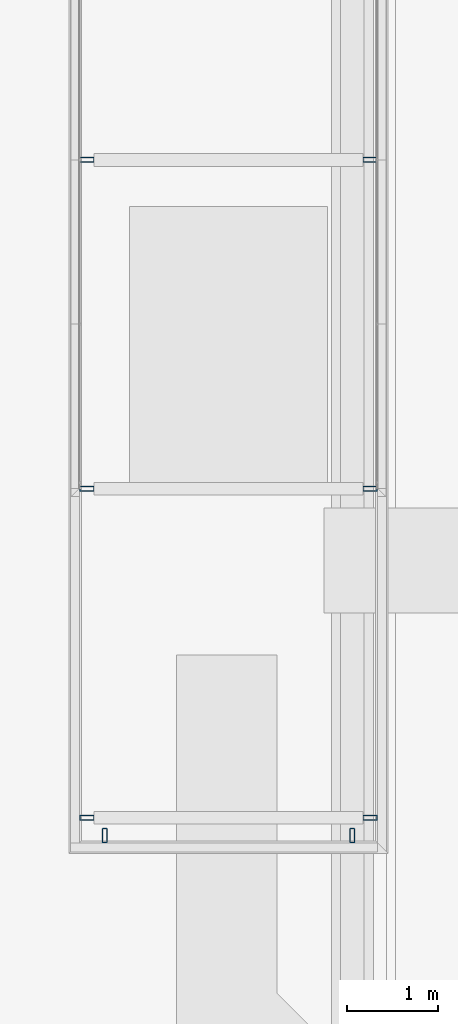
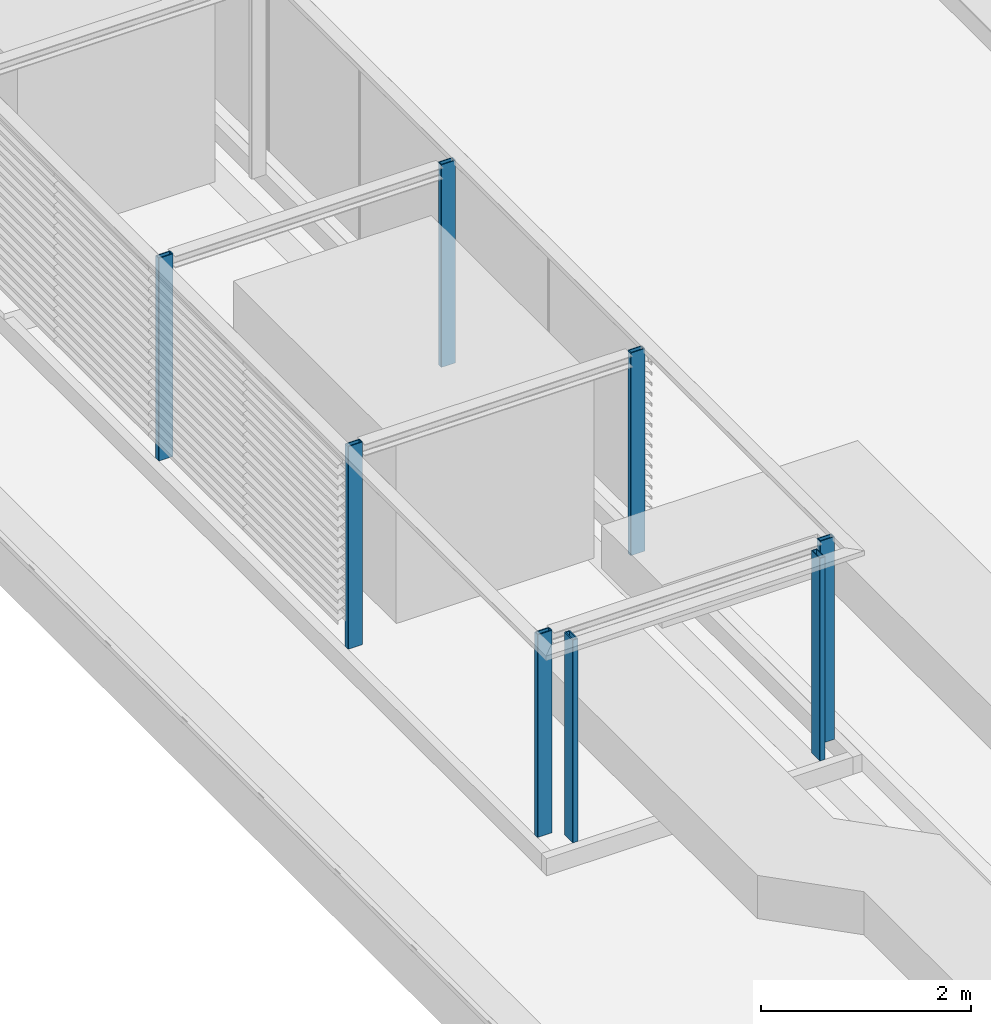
# One storey, part 1 of 32: 8 columns.
"""IFC2X3 building model written with IfcOpenShell, lengths in millimetres."""

import ifcopenshell
import ifcopenshell.guid

model = None  # the IFC model being written
_history = None  # IfcOwnerHistory: only IFC2X3 demands one
_inside = {}  # id of a spatial element -> (the spatial element, [elements in it])
_under = {}  # id of a project, library or spatial element -> (it, [spatial elements below it])
_declared = {}  # id of a project -> (the project, [libraries it declares])
_typed = {}  # id of a type object -> (the type object, [elements of that type])
_made_of = {}  # id of a material, layer set ... -> (it, [elements and type objects made of it])


def new_model(schema):
    """Start an empty IFC model of exactly this schema.

    Asked for "IFC4X3", IfcOpenShell would pick the latest addendum, in which some entities
    have other attributes; the version numbers below select the first issue.
    IFC2X3 requires an IfcOwnerHistory on every rooted entity: one is made here for all.
    """
    global model, _history
    if schema == "IFC4X3":
        model = ifcopenshell.file(schema_version=(4, 3, 0, 0))
    else:
        model = ifcopenshell.file(schema=schema)
    _inside.clear()
    _under.clear()
    _declared.clear()
    _typed.clear()
    _made_of.clear()
    _history = None
    if model.schema == "IFC2X3":
        org = make("IfcOrganization", Name="unknown")
        user = make(
            "IfcPersonAndOrganization",
            ThePerson=make("IfcPerson", FamilyName="unknown"),
            TheOrganization=org,
        )
        app = make(
            "IfcApplication",
            ApplicationDeveloper=org,
            Version="unknown",
            ApplicationFullName="unknown",
            ApplicationIdentifier="unknown",
        )
        _history = make(
            "IfcOwnerHistory",
            OwningUser=user,
            OwningApplication=app,
            ChangeAction="ADDED",
            CreationDate=0,
        )
    return model


def make(cls, **values):
    """One entity of the class cls with the attributes given. An attribute that is None is left unset."""
    return model.create_entity(
        cls, **{name: value for name, value in values.items() if value is not None}
    )


def entity(cls, *values):
    """Any entity or typed value of the class cls, its attributes in the order of the schema. None: left unset."""
    e = model.create_entity(cls)
    for i, value in enumerate(values):
        if value is not None:
            e[i] = value
    return e


def rooted(cls, **values):
    """An entity with a GlobalId (a new one), such as an element, a storey or a relation."""
    return make(cls, GlobalId=ifcopenshell.guid.new(), OwnerHistory=_history, **values)


def si_unit(unit_type, name, prefix=None):
    """IfcSIUnit, for example si_unit("LENGTHUNIT", "METRE", prefix="MILLI")."""
    return make("IfcSIUnit", UnitType=unit_type, Prefix=prefix, Name=name)


def converted_unit(unit_type, name, factor, base, dimensions=None, offset=None):
    """IfcConversionBasedUnit, such as the inch: factor (a typed value) times the base unit."""
    return make(
        "IfcConversionBasedUnit"
        if offset is None
        else "IfcConversionBasedUnitWithOffset",
        ConversionOffset=offset,
        Dimensions=None
        if dimensions is None
        else entity("IfcDimensionalExponents", *dimensions),
        UnitType=unit_type,
        Name=name,
        ConversionFactor=make(
            "IfcMeasureWithUnit", ValueComponent=factor, UnitComponent=base
        ),
    )


def derived_unit(unit_type, elements):
    """IfcDerivedUnit: a product of units, each with its exponent."""
    return make(
        "IfcDerivedUnit",
        Elements=[
            make("IfcDerivedUnitElement", Unit=unit, Exponent=power)
            for unit, power in elements
        ],
        UnitType=unit_type,
    )


def assignment(units):
    """IfcUnitAssignment: the units of a project."""
    return None if units is None else make("IfcUnitAssignment", Units=units)


def point(xyz):
    """IfcCartesianPoint."""
    return None if xyz is None else make("IfcCartesianPoint", Coordinates=xyz)


def direction(xyz):
    """IfcDirection."""
    return None if xyz is None else make("IfcDirection", DirectionRatios=xyz)


def frame(location, z_axis=None, x_axis=None):
    """IfcAxis2Placement3D, a coordinate frame: its origin and axes. An axis left out is left unset."""
    return make(
        "IfcAxis2Placement3D",
        Location=point(location),
        Axis=direction(z_axis),
        RefDirection=direction(x_axis),
    )


def frame_2d(location, x_axis=None):
    """IfcAxis2Placement2D, a coordinate frame in the plane: its origin and x axis."""
    return make(
        "IfcAxis2Placement2D", Location=point(location), RefDirection=direction(x_axis)
    )


def origin():
    """The frame at (0, 0, 0) with its axes left unset."""
    return frame((0.0, 0.0, 0.0))


def place(relative_to, where):
    """IfcLocalPlacement: puts the frame where relative to a parent placement (None: the world)."""
    return make(
        "IfcLocalPlacement", PlacementRelTo=relative_to, RelativePlacement=where
    )


def context(
    kind, dimensions, precision=None, world=None, true_north=None, identifier=None
):
    """IfcGeometricRepresentationContext, for example the 3D "Model" context."""
    return make(
        "IfcGeometricRepresentationContext",
        ContextIdentifier=identifier,
        ContextType=kind,
        CoordinateSpaceDimension=dimensions,
        Precision=precision,
        WorldCoordinateSystem=world,
        TrueNorth=true_north,
    )


def subcontext(parent, identifier, kind, view, scale=None):
    """IfcGeometricRepresentationSubContext, for example "Body" below "Model"."""
    return make(
        "IfcGeometricRepresentationSubContext",
        ContextIdentifier=identifier,
        ContextType=kind,
        ParentContext=parent,
        TargetScale=scale,
        TargetView=view,
    )


def project(units=None, contexts=None):
    """IfcProject with its units and contexts."""
    return rooted(
        "IfcProject",
        Name="project",
        RepresentationContexts=contexts,
        UnitsInContext=assignment(units),
    )


def spatial(cls, under=None, at=None, **own):
    """A site, building, storey or space (cls), placed at a placement, below another one or the project."""
    s = rooted(cls, ObjectPlacement=at, **own)
    if under is not None:
        _under.setdefault(under.id(), (under, []))[1].append(s)
    return s


def polyline(points):
    """IfcPolyline through the points."""
    return make("IfcPolyline", Points=[point(p) for p in points])


def circle_curve(where, radius):
    """IfcCircle in the frame where."""
    return make("IfcCircle", Position=where, Radius=radius)


def parameter(value):
    """IfcParameterValue: where a trimmed curve begins or ends, as a parameter of its basis curve."""
    return model.create_entity("IfcParameterValue", value)


def trimmed(basis, trim1, trim2, sense, master):
    """IfcTrimmedCurve: the piece of a basis curve between two trims."""
    return make(
        "IfcTrimmedCurve",
        BasisCurve=basis,
        Trim1=trim1,
        Trim2=trim2,
        SenseAgreement=sense,
        MasterRepresentation=master,
    )


def segment(curve, same_sense, transition):
    """IfcCompositeCurveSegment."""
    return make(
        "IfcCompositeCurveSegment",
        Transition=transition,
        SameSense=same_sense,
        ParentCurve=curve,
    )


def composite_curve(segments, self_intersect=None):
    """IfcCompositeCurve: segments joined end to end."""
    return make("IfcCompositeCurve", Segments=segments, SelfIntersect=self_intersect)


def outline(outer, holes=None, kind="AREA"):
    """IfcArbitraryClosedProfileDef: a profile drawn as a closed curve; with holes, ...WithVoids."""
    if holes is None:
        return make("IfcArbitraryClosedProfileDef", ProfileType=kind, OuterCurve=outer)
    return make(
        "IfcArbitraryProfileDefWithVoids",
        ProfileType=kind,
        OuterCurve=outer,
        InnerCurves=holes,
    )


def extrude(swept, where, along, depth):
    """IfcExtrudedAreaSolid: the profile swept, set in the frame where, extruded along a direction by depth."""
    return make(
        "IfcExtrudedAreaSolid",
        SweptArea=swept,
        Position=where,
        ExtrudedDirection=direction(along),
        Depth=depth,
    )


def shape(context_of_items, identifier, shape_type, items):
    """IfcShapeRepresentation: the items that make up one representation, for example the "Body"."""
    return make(
        "IfcShapeRepresentation",
        ContextOfItems=context_of_items,
        RepresentationIdentifier=identifier,
        RepresentationType=shape_type,
        Items=items,
    )


def source(mapping_origin, context_of_items, identifier, shape_type, items):
    """IfcRepresentationMap: a shape defined once, which mapped items show again and again."""
    return make(
        "IfcRepresentationMap",
        MappingOrigin=mapping_origin,
        MappedRepresentation=shape(context_of_items, identifier, shape_type, items),
    )


def transform(
    local_origin,
    x_axis=None,
    y_axis=None,
    z_axis=None,
    scale=None,
    scale2=None,
    scale3=None,
    uniform=True,
):
    """IfcCartesianTransformationOperator3D, or its non-uniform kind. x_axis, y_axis, z_axis: its Axis1, 2, 3."""
    if uniform:
        return make(
            "IfcCartesianTransformationOperator3D",
            Axis1=direction(x_axis),
            Axis2=direction(y_axis),
            LocalOrigin=point(local_origin),
            Scale=scale,
            Axis3=direction(z_axis),
        )
    return make(
        "IfcCartesianTransformationOperator3DnonUniform",
        Axis1=direction(x_axis),
        Axis2=direction(y_axis),
        LocalOrigin=point(local_origin),
        Scale=scale,
        Axis3=direction(z_axis),
        Scale2=scale2,
        Scale3=scale3,
    )


def mapped(mapping_source, mapping_target):
    """IfcMappedItem: shows the shape of a source again, moved by a transform."""
    return make(
        "IfcMappedItem", MappingSource=mapping_source, MappingTarget=mapping_target
    )


def material(Name=None, Category=None):
    """IfcMaterial."""
    return make("IfcMaterial", Name=Name, Category=Category)


def made_of(thing, what):
    """Note that an element or type object is made of a material, layer set ...; save() writes the relation."""
    if what is not None:
        _made_of.setdefault(what.id(), (what, []))[1].append(thing)
    return thing


def type_object(cls, material=None, **own):
    """A type object (cls), such as IfcWallType, which elements share."""
    return made_of(rooted(cls, **own), material)


def type_shapes(of_type, sources):
    """Give a type object the sources (RepresentationMaps) that its elements show as mapped items."""
    of_type.RepresentationMaps = sources


def element(
    cls,
    number,
    at=None,
    inside=None,
    cuts=None,
    type_object=None,
    material=None,
    context=None,
    identifier="Body",
    shape_type=None,
    held_by="IfcProductDefinitionShape",
    body=None,
    shapes=None,
    **own,
):
    """One element of the class cls, such as IfcWall. Its Tag is "e" and its number.

    at: its placement. inside: the storey or other place that contains it. cuts: it is an
    opening in that element (IfcRelVoidsElement). A single representation is given by context,
    identifier, shape_type and body (its items); several are given by shapes. held_by: the class
    of the entity that holds the representations. save() writes the other relations.
    """
    e = rooted(cls, Tag="e%d" % number, ObjectPlacement=at, **own)
    if body is not None:
        shapes = [shape(context, identifier, shape_type, body)]
    if shapes is not None:
        e.Representation = make(held_by, Representations=shapes)
    if inside is not None:
        _inside.setdefault(inside.id(), (inside, []))[1].append(e)
    if cuts is not None:
        rooted(
            "IfcRelVoidsElement", RelatingBuildingElement=cuts, RelatedOpeningElement=e
        )
    if type_object is not None:
        _typed.setdefault(type_object.id(), (type_object, []))[1].append(e)
    return made_of(e, material)


def aggregate(whole, parts):
    """IfcRelAggregates: a whole, such as a stair, and the parts it consists of."""
    return rooted("IfcRelAggregates", RelatingObject=whole, RelatedObjects=parts)


def save(model, path):
    """Write the relations noted so far, then the file.

    IfcRelAggregates (storeys below a building ...), IfcRelContainedInSpatialStructure (elements
    in a storey), IfcRelDefinesByType, IfcRelAssociatesMaterial and IfcRelDeclares: one each for
    every whole, place, type object, material and project.
    """
    for whole, parts in _under.values():
        aggregate(whole, parts)
    for where, things in _inside.values():
        rooted(
            "IfcRelContainedInSpatialStructure",
            RelatedElements=things,
            RelatingStructure=where,
        )
    for kind, things in _typed.values():
        rooted("IfcRelDefinesByType", RelatedObjects=things, RelatingType=kind)
    for what, things in _made_of.values():
        rooted("IfcRelAssociatesMaterial", RelatedObjects=things, RelatingMaterial=what)
    for by, libraries in _declared.values():
        rooted("IfcRelDeclares", RelatingContext=by, RelatedDefinitions=libraries)
    model.write(path)


model = new_model("IFC2X3")

# Units and contexts
model_context = context("Model", 3, precision=0.01, world=origin(), true_north=direction((6.123031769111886e-17, 1.0)))
body_context = subcontext(model_context, "Body", "Model", "MODEL_VIEW")
ifc_project = project(units=[si_unit("LENGTHUNIT", "METRE", prefix="MILLI"), si_unit("AREAUNIT", "SQUARE_METRE"), si_unit("VOLUMEUNIT", "CUBIC_METRE"), converted_unit("PLANEANGLEUNIT", "DEGREE", entity("IfcRatioMeasure", 0.017453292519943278), si_unit("PLANEANGLEUNIT", "RADIAN"), dimensions=[0, 0, 0, 0, 0, 0, 0]), si_unit("MASSUNIT", "GRAM", prefix="KILO"), derived_unit("MASSDENSITYUNIT", [(si_unit("MASSUNIT", "GRAM", prefix="KILO"), 1), (si_unit("LENGTHUNIT", "METRE"), -3)]), derived_unit("IONCONCENTRATIONUNIT", [(si_unit("MASSUNIT", "GRAM", prefix="KILO"), 1), (si_unit("LENGTHUNIT", "METRE"), -3)]), derived_unit("MOMENTOFINERTIAUNIT", [(si_unit("LENGTHUNIT", "METRE"), 4)]), si_unit("TIMEUNIT", "SECOND"), si_unit("FREQUENCYUNIT", "HERTZ"), si_unit("THERMODYNAMICTEMPERATUREUNIT", "DEGREE_CELSIUS"), derived_unit("THERMALTRANSMITTANCEUNIT", [(si_unit("MASSUNIT", "GRAM", prefix="KILO"), 1), (si_unit("THERMODYNAMICTEMPERATUREUNIT", "KELVIN"), -1), (si_unit("TIMEUNIT", "SECOND"), -3)]), derived_unit("THERMALCONDUCTANCEUNIT", [(si_unit("MASSUNIT", "GRAM", prefix="KILO"), 1), (si_unit("THERMODYNAMICTEMPERATUREUNIT", "KELVIN"), -1), (si_unit("TIMEUNIT", "SECOND"), -3), (si_unit("LENGTHUNIT", "METRE"), 1)]), derived_unit("VOLUMETRICFLOWRATEUNIT", [(si_unit("LENGTHUNIT", "METRE"), 3), (si_unit("TIMEUNIT", "SECOND"), -1)]), derived_unit("MASSFLOWRATEUNIT", [(si_unit("MASSUNIT", "GRAM", prefix="KILO"), 1), (si_unit("TIMEUNIT", "SECOND"), -1)]), derived_unit("ROTATIONALFREQUENCYUNIT", [(si_unit("TIMEUNIT", "SECOND"), -1)]), si_unit("ELECTRICCURRENTUNIT", "AMPERE"), si_unit("ELECTRICVOLTAGEUNIT", "VOLT"), si_unit("POWERUNIT", "WATT"), si_unit("FORCEUNIT", "NEWTON", prefix="KILO"), si_unit("ILLUMINANCEUNIT", "LUX"), si_unit("LUMINOUSFLUXUNIT", "LUMEN"), si_unit("LUMINOUSINTENSITYUNIT", "CANDELA"), derived_unit("USERDEFINED", [(si_unit("MASSUNIT", "GRAM", prefix="KILO"), -1), (si_unit("LENGTHUNIT", "METRE"), -2), (si_unit("TIMEUNIT", "SECOND"), 3), (si_unit("LUMINOUSFLUXUNIT", "LUMEN"), 1)]), derived_unit("USERDEFINED", [(si_unit("MASSUNIT", "GRAM", prefix="KILO"), 1), (si_unit("TIMEUNIT", "SECOND"), -3), (si_unit("LENGTHUNIT", "METRE"), 3), (si_unit("ELECTRICCURRENTUNIT", "AMPERE"), -2)]), derived_unit("SOUNDPOWERUNIT", [(si_unit("MASSUNIT", "GRAM", prefix="KILO"), 1), (si_unit("TIMEUNIT", "SECOND"), -3), (si_unit("LENGTHUNIT", "METRE"), 2)]), derived_unit("SOUNDPRESSUREUNIT", [(si_unit("MASSUNIT", "GRAM", prefix="KILO"), 1), (si_unit("LENGTHUNIT", "METRE"), -1), (si_unit("TIMEUNIT", "SECOND"), -2)]), derived_unit("LINEARVELOCITYUNIT", [(si_unit("LENGTHUNIT", "METRE"), 1), (si_unit("TIMEUNIT", "SECOND"), -1)]), si_unit("PRESSUREUNIT", "PASCAL"), derived_unit("USERDEFINED", [(si_unit("MASSUNIT", "GRAM", prefix="KILO"), 1), (si_unit("LENGTHUNIT", "METRE"), -2), (si_unit("TIMEUNIT", "SECOND"), -2)]), derived_unit("LINEARFORCEUNIT", [(si_unit("MASSUNIT", "GRAM", prefix="KILO"), 1), (si_unit("TIMEUNIT", "SECOND"), -2)]), derived_unit("PLANARFORCEUNIT", [(si_unit("MASSUNIT", "GRAM", prefix="KILO"), 1), (si_unit("LENGTHUNIT", "METRE"), -1), (si_unit("TIMEUNIT", "SECOND"), -2)]), derived_unit("SPECIFICHEATCAPACITYUNIT", [(si_unit("THERMODYNAMICTEMPERATUREUNIT", "KELVIN"), -1), (si_unit("LENGTHUNIT", "METRE"), 2), (si_unit("TIMEUNIT", "SECOND"), -2)]), derived_unit("HEATINGVALUEUNIT", [(si_unit("LENGTHUNIT", "METRE"), 2), (si_unit("TIMEUNIT", "SECOND"), -2)]), derived_unit("VAPORPERMEABILITYUNIT", [(si_unit("LENGTHUNIT", "METRE"), -1), (si_unit("TIMEUNIT", "SECOND"), 1)]), derived_unit("DYNAMICVISCOSITYUNIT", [(si_unit("MASSUNIT", "GRAM", prefix="KILO"), 1), (si_unit("TIMEUNIT", "SECOND"), -1), (si_unit("LENGTHUNIT", "METRE"), -1)]), derived_unit("THERMALEXPANSIONCOEFFICIENTUNIT", [(si_unit("THERMODYNAMICTEMPERATUREUNIT", "KELVIN"), -1)]), derived_unit("MODULUSOFELASTICITYUNIT", [(si_unit("MASSUNIT", "GRAM", prefix="KILO"), 1), (si_unit("LENGTHUNIT", "METRE"), -1), (si_unit("TIMEUNIT", "SECOND"), -2)]), derived_unit("ISOTHERMALMOISTURECAPACITYUNIT", [(si_unit("LENGTHUNIT", "METRE"), 3), (si_unit("MASSUNIT", "GRAM", prefix="KILO"), -1)]), derived_unit("MOISTUREDIFFUSIVITYUNIT", [(si_unit("TIMEUNIT", "SECOND"), -1), (si_unit("LENGTHUNIT", "METRE"), 2)])], contexts=[model_context])

# Site, building, storey
site_placement = place(None, frame((0.0, 300.0, 0.0)))
site = spatial("IfcSite", under=ifc_project, at=site_placement, Name="<Kadastrale nummers>", CompositionType="ELEMENT")
building_placement = place(site_placement, origin())
building = spatial("IfcBuilding", under=site, at=building_placement, CompositionType="ELEMENT")
storey_placement = place(building_placement, frame((0.0, 0.0, 7150.000035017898)))
storey = spatial("IfcBuildingStorey", under=building, at=storey_placement, Name="02 tweede verdieping", CompositionType="ELEMENT", Elevation=7150.000035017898)

# Columns
ifc_material = material(Name="ISR_Staal")
column_type_1 = type_object("IfcColumnType", Name="NLRS_28_SCO_TLB_kolom koker RHS_gen_ASN:kolom K120x60x10", PredefinedType="COLUMN", material=ifc_material)
shared_shape_1 = source(origin(), body_context, "Body", "SweptSolid", [
    extrude(outline(composite_curve([segment(trimmed(circle_curve(frame_2d((24.0, 74.0), x_axis=(1.0, 0.0)), 6.0), [parameter(0.0)], [parameter(90.00000000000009)], True, "PARAMETER"), True, "CONTINUOUS"), segment(polyline([(24.0, 80.0), (-24.0, 80.0)]), True, "CONTINUOUS"), segment(trimmed(circle_curve(frame_2d((-24.0, 74.0), x_axis=(1.0, 0.0)), 6.0), [parameter(90.00000000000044)], [parameter(180.0000000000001)], True, "PARAMETER"), True, "CONTINUOUS"), segment(polyline([(-30.0, 74.0), (-30.0, -74.0)]), True, "CONTINUOUS"), segment(trimmed(circle_curve(frame_2d((-24.0, -74.0), x_axis=(1.0, 0.0)), 6.0), [parameter(180.0000000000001)], [parameter(269.9999999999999)], True, "PARAMETER"), True, "CONTINUOUS"), segment(polyline([(-24.0, -80.0), (24.0, -80.0)]), True, "CONTINUOUS"), segment(trimmed(circle_curve(frame_2d((24.0, -74.0), x_axis=(1.0, 0.0)), 6.000000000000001), [parameter(270.0000000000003)], [parameter(5.088887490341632e-13)], True, "PARAMETER"), True, "CONTINUOUS"), segment(polyline([(30.0, -74.0), (30.0, 74.0)]), True, "CONTINUOUS")], self_intersect=False), holes=[composite_curve([segment(polyline([(-17.0, 70.0), (17.0, 70.0)]), True, "CONTINUOUS"), segment(trimmed(circle_curve(frame_2d((17.0, 67.0), x_axis=(1.0, 0.0)), 3.0000000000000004), [parameter(359.99999999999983)], [parameter(90.00000000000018)], True, "PARAMETER"), False, "CONTINUOUS"), segment(polyline([(20.0, 67.0), (20.0, -67.0)]), True, "CONTINUOUS"), segment(trimmed(circle_curve(frame_2d((17.0, -67.0), x_axis=(1.0, 0.0)), 2.9999999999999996), [parameter(269.9999999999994)], [parameter(359.99999999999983)], True, "PARAMETER"), False, "CONTINUOUS"), segment(polyline([(17.0, -70.0), (-17.0, -70.0)]), True, "CONTINUOUS"), segment(trimmed(circle_curve(frame_2d((-17.0, -67.0), x_axis=(1.0, 0.0)), 3.0), [parameter(180.0000000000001)], [parameter(269.9999999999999)], True, "PARAMETER"), False, "CONTINUOUS"), segment(polyline([(-20.0, -67.0), (-20.0, 67.0)]), True, "CONTINUOUS"), segment(trimmed(circle_curve(frame_2d((-17.0, 67.0), x_axis=(1.0, 0.0)), 3.0000000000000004), [parameter(90.00000000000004)], [parameter(180.00000000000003)], True, "PARAMETER"), False, "CONTINUOUS")], self_intersect=False)]), frame((38495.0, 35400.0, 7350.000035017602), z_axis=(0.0, 0.0, 1.0), x_axis=(0.0, -1.0, 0.0)), (0.0, 0.0, 1.0), 2349.9999649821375),
])
type_shapes(column_type_1, [shared_shape_1])
column_1_placement = place(storey_placement, frame((0.0, 0.0, -7150.000035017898)))
element("IfcColumn", 1, at=column_1_placement, inside=storey, type_object=column_type_1, material=ifc_material, Name="NLRS_28_SCO_TLB_kolom koker RHS_gen_ASN:kolom K120x60x10", ObjectType="NLRS_28_SCO_TLB_kolom koker RHS_gen_ASN:kolom K120x60x10", context=body_context, shape_type="MappedRepresentation", body=[
    mapped(shared_shape_1, transform((0.0, 0.0, 0.0), scale=1.0)),
])
column_type_2 = type_object("IfcColumnType", Name="NLRS_28_SCO_TLB_kolom koker RHS_gen_ASN:kolom K120x60x10", PredefinedType="COLUMN", material=ifc_material)
shared_shape_2 = source(origin(), body_context, "Body", "SweptSolid", [
    extrude(outline(composite_curve([segment(trimmed(circle_curve(frame_2d((24.0, 74.0), x_axis=(1.0, 0.0)), 6.0), [parameter(0.0)], [parameter(90.00000000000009)], True, "PARAMETER"), True, "CONTINUOUS"), segment(polyline([(24.0, 80.0), (-24.0, 80.0)]), True, "CONTINUOUS"), segment(trimmed(circle_curve(frame_2d((-24.0, 74.0), x_axis=(1.0, 0.0)), 6.0), [parameter(90.00000000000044)], [parameter(180.0000000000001)], True, "PARAMETER"), True, "CONTINUOUS"), segment(polyline([(-30.0, 74.0), (-30.0, -74.0)]), True, "CONTINUOUS"), segment(trimmed(circle_curve(frame_2d((-24.0, -74.0), x_axis=(1.0, 0.0)), 6.0), [parameter(180.0000000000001)], [parameter(269.9999999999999)], True, "PARAMETER"), True, "CONTINUOUS"), segment(polyline([(-24.0, -80.0), (24.0, -80.0)]), True, "CONTINUOUS"), segment(trimmed(circle_curve(frame_2d((24.0, -74.0), x_axis=(1.0, 0.0)), 6.000000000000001), [parameter(270.0000000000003)], [parameter(5.088887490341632e-13)], True, "PARAMETER"), True, "CONTINUOUS"), segment(polyline([(30.0, -74.0), (30.0, 74.0)]), True, "CONTINUOUS")], self_intersect=False), holes=[composite_curve([segment(polyline([(-17.0, 70.0), (17.0, 70.0)]), True, "CONTINUOUS"), segment(trimmed(circle_curve(frame_2d((17.0, 67.0), x_axis=(1.0, 0.0)), 3.0000000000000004), [parameter(359.99999999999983)], [parameter(90.00000000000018)], True, "PARAMETER"), False, "CONTINUOUS"), segment(polyline([(20.0, 67.0), (20.0, -67.0)]), True, "CONTINUOUS"), segment(trimmed(circle_curve(frame_2d((17.0, -67.0), x_axis=(1.0, 0.0)), 2.9999999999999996), [parameter(269.9999999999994)], [parameter(359.99999999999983)], True, "PARAMETER"), False, "CONTINUOUS"), segment(polyline([(17.0, -70.0), (-17.0, -70.0)]), True, "CONTINUOUS"), segment(trimmed(circle_curve(frame_2d((-17.0, -67.0), x_axis=(1.0, 0.0)), 3.0), [parameter(180.0000000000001)], [parameter(269.9999999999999)], True, "PARAMETER"), False, "CONTINUOUS"), segment(polyline([(-20.0, -67.0), (-20.0, 67.0)]), True, "CONTINUOUS"), segment(trimmed(circle_curve(frame_2d((-17.0, 67.0), x_axis=(1.0, 0.0)), 3.0000000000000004), [parameter(90.00000000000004)], [parameter(180.00000000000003)], True, "PARAMETER"), False, "CONTINUOUS")], self_intersect=False)]), frame((41595.0, 35400.0, 7350.000035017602), z_axis=(0.0, 0.0, 1.0), x_axis=(0.0, -1.0, 0.0)), (0.0, 0.0, 1.0), 2349.9999649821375),
])
type_shapes(column_type_2, [shared_shape_2])
column_2_placement = place(storey_placement, frame((0.0, 0.0, -7150.000035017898)))
element("IfcColumn", 2, at=column_2_placement, inside=storey, type_object=column_type_2, material=ifc_material, Name="NLRS_28_SCO_TLB_kolom koker RHS_gen_ASN:kolom K120x60x10", ObjectType="NLRS_28_SCO_TLB_kolom koker RHS_gen_ASN:kolom K120x60x10", context=body_context, shape_type="MappedRepresentation", body=[
    mapped(shared_shape_2, transform((0.0, 0.0, 0.0), scale=1.0)),
])
column_type_3 = type_object("IfcColumnType", Name="NLRS_28_SCO_TLB_kolom koker RHS_gen_ASN:kolom K120x60x10", PredefinedType="COLUMN", material=ifc_material)
shared_shape_3 = source(origin(), body_context, "Body", "SweptSolid", [
    extrude(outline(composite_curve([segment(trimmed(circle_curve(frame_2d((24.0, 74.0), x_axis=(1.0, 0.0)), 6.0), [parameter(0.0)], [parameter(90.00000000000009)], True, "PARAMETER"), True, "CONTINUOUS"), segment(polyline([(24.0, 80.0), (-24.0, 80.0)]), True, "CONTINUOUS"), segment(trimmed(circle_curve(frame_2d((-24.0, 74.0), x_axis=(1.0, 0.0)), 6.0), [parameter(90.00000000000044)], [parameter(180.0000000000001)], True, "PARAMETER"), True, "CONTINUOUS"), segment(polyline([(-30.0, 74.0), (-30.0, -74.0)]), True, "CONTINUOUS"), segment(trimmed(circle_curve(frame_2d((-24.0, -74.0), x_axis=(1.0, 0.0)), 6.0), [parameter(180.0000000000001)], [parameter(269.9999999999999)], True, "PARAMETER"), True, "CONTINUOUS"), segment(polyline([(-24.0, -80.0), (24.0, -80.0)]), True, "CONTINUOUS"), segment(trimmed(circle_curve(frame_2d((24.0, -74.0), x_axis=(1.0, 0.0)), 6.000000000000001), [parameter(270.0000000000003)], [parameter(5.088887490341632e-13)], True, "PARAMETER"), True, "CONTINUOUS"), segment(polyline([(30.0, -74.0), (30.0, 74.0)]), True, "CONTINUOUS")], self_intersect=False), holes=[composite_curve([segment(polyline([(-17.0, 70.0), (17.0, 70.0)]), True, "CONTINUOUS"), segment(trimmed(circle_curve(frame_2d((17.0, 67.0), x_axis=(1.0, 0.0)), 3.0000000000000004), [parameter(359.99999999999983)], [parameter(90.00000000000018)], True, "PARAMETER"), False, "CONTINUOUS"), segment(polyline([(20.0, 67.0), (20.0, -67.0)]), True, "CONTINUOUS"), segment(trimmed(circle_curve(frame_2d((17.0, -67.0), x_axis=(1.0, 0.0)), 2.9999999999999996), [parameter(269.9999999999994)], [parameter(359.99999999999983)], True, "PARAMETER"), False, "CONTINUOUS"), segment(polyline([(17.0, -70.0), (-17.0, -70.0)]), True, "CONTINUOUS"), segment(trimmed(circle_curve(frame_2d((-17.0, -67.0), x_axis=(1.0, 0.0)), 3.0), [parameter(180.0000000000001)], [parameter(269.9999999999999)], True, "PARAMETER"), False, "CONTINUOUS"), segment(polyline([(-20.0, -67.0), (-20.0, 67.0)]), True, "CONTINUOUS"), segment(trimmed(circle_curve(frame_2d((-17.0, 67.0), x_axis=(1.0, 0.0)), 3.0000000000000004), [parameter(90.00000000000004)], [parameter(180.00000000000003)], True, "PARAMETER"), False, "CONTINUOUS")], self_intersect=False)]), frame((38495.0, 31800.0, 7350.000035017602), z_axis=(0.0, 0.0, 1.0), x_axis=(0.0, -1.0, 0.0)), (0.0, 0.0, 1.0), 2349.9999649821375),
])
type_shapes(column_type_3, [shared_shape_3])
column_3_placement = place(storey_placement, frame((0.0, 0.0, -7150.000035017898)))
element("IfcColumn", 3, at=column_3_placement, inside=storey, type_object=column_type_3, material=ifc_material, Name="NLRS_28_SCO_TLB_kolom koker RHS_gen_ASN:kolom K120x60x10", ObjectType="NLRS_28_SCO_TLB_kolom koker RHS_gen_ASN:kolom K120x60x10", context=body_context, shape_type="MappedRepresentation", body=[
    mapped(shared_shape_3, transform((0.0, 0.0, 0.0), scale=1.0)),
])
column_type_4 = type_object("IfcColumnType", Name="NLRS_28_SCO_TLB_kolom koker RHS_gen_ASN:kolom K120x60x10", PredefinedType="COLUMN", material=ifc_material)
shared_shape_4 = source(origin(), body_context, "Body", "SweptSolid", [
    extrude(outline(composite_curve([segment(trimmed(circle_curve(frame_2d((24.0, 74.0), x_axis=(1.0, 0.0)), 6.0), [parameter(0.0)], [parameter(90.00000000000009)], True, "PARAMETER"), True, "CONTINUOUS"), segment(polyline([(24.0, 80.0), (-24.0, 80.0)]), True, "CONTINUOUS"), segment(trimmed(circle_curve(frame_2d((-24.0, 74.0), x_axis=(1.0, 0.0)), 6.0), [parameter(90.00000000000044)], [parameter(180.0000000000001)], True, "PARAMETER"), True, "CONTINUOUS"), segment(polyline([(-30.0, 74.0), (-30.0, -74.0)]), True, "CONTINUOUS"), segment(trimmed(circle_curve(frame_2d((-24.0, -74.0), x_axis=(1.0, 0.0)), 6.0), [parameter(180.0000000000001)], [parameter(269.9999999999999)], True, "PARAMETER"), True, "CONTINUOUS"), segment(polyline([(-24.0, -80.0), (24.0, -80.0)]), True, "CONTINUOUS"), segment(trimmed(circle_curve(frame_2d((24.0, -74.0), x_axis=(1.0, 0.0)), 6.000000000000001), [parameter(270.0000000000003)], [parameter(5.088887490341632e-13)], True, "PARAMETER"), True, "CONTINUOUS"), segment(polyline([(30.0, -74.0), (30.0, 74.0)]), True, "CONTINUOUS")], self_intersect=False), holes=[composite_curve([segment(polyline([(-17.0, 70.0), (17.0, 70.0)]), True, "CONTINUOUS"), segment(trimmed(circle_curve(frame_2d((17.0, 67.0), x_axis=(1.0, 0.0)), 3.0000000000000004), [parameter(359.99999999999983)], [parameter(90.00000000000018)], True, "PARAMETER"), False, "CONTINUOUS"), segment(polyline([(20.0, 67.0), (20.0, -67.0)]), True, "CONTINUOUS"), segment(trimmed(circle_curve(frame_2d((17.0, -67.0), x_axis=(1.0, 0.0)), 2.9999999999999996), [parameter(269.9999999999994)], [parameter(359.99999999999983)], True, "PARAMETER"), False, "CONTINUOUS"), segment(polyline([(17.0, -70.0), (-17.0, -70.0)]), True, "CONTINUOUS"), segment(trimmed(circle_curve(frame_2d((-17.0, -67.0), x_axis=(1.0, 0.0)), 3.0), [parameter(180.0000000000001)], [parameter(269.9999999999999)], True, "PARAMETER"), False, "CONTINUOUS"), segment(polyline([(-20.0, -67.0), (-20.0, 67.0)]), True, "CONTINUOUS"), segment(trimmed(circle_curve(frame_2d((-17.0, 67.0), x_axis=(1.0, 0.0)), 3.0000000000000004), [parameter(90.00000000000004)], [parameter(180.00000000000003)], True, "PARAMETER"), False, "CONTINUOUS")], self_intersect=False)]), frame((41595.0, 31800.0, 7350.000035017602), z_axis=(0.0, 0.0, 1.0), x_axis=(0.0, -1.0, 0.0)), (0.0, 0.0, 1.0), 2349.9999649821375),
])
type_shapes(column_type_4, [shared_shape_4])
column_4_placement = place(storey_placement, frame((0.0, 0.0, -7150.000035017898)))
element("IfcColumn", 4, at=column_4_placement, inside=storey, type_object=column_type_4, material=ifc_material, Name="NLRS_28_SCO_TLB_kolom koker RHS_gen_ASN:kolom K120x60x10", ObjectType="NLRS_28_SCO_TLB_kolom koker RHS_gen_ASN:kolom K120x60x10", context=body_context, shape_type="MappedRepresentation", body=[
    mapped(shared_shape_4, transform((0.0, 0.0, 0.0), scale=1.0)),
])
column_type_5 = type_object("IfcColumnType", Name="NLRS_28_SCO_TLB_kolom koker RHS_gen_ASN:kolom K120x60x10", PredefinedType="COLUMN", material=ifc_material)
shared_shape_5 = source(origin(), body_context, "Body", "SweptSolid", [
    extrude(outline(composite_curve([segment(trimmed(circle_curve(frame_2d((24.0, 74.0), x_axis=(1.0, 0.0)), 6.0), [parameter(0.0)], [parameter(90.00000000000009)], True, "PARAMETER"), True, "CONTINUOUS"), segment(polyline([(24.0, 80.0), (-24.0, 80.0)]), True, "CONTINUOUS"), segment(trimmed(circle_curve(frame_2d((-24.0, 74.0), x_axis=(1.0, 0.0)), 6.0), [parameter(90.00000000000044)], [parameter(180.0000000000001)], True, "PARAMETER"), True, "CONTINUOUS"), segment(polyline([(-30.0, 74.0), (-30.0, -74.0)]), True, "CONTINUOUS"), segment(trimmed(circle_curve(frame_2d((-24.0, -74.0), x_axis=(1.0, 0.0)), 6.0), [parameter(180.0000000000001)], [parameter(269.9999999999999)], True, "PARAMETER"), True, "CONTINUOUS"), segment(polyline([(-24.0, -80.0), (24.0, -80.0)]), True, "CONTINUOUS"), segment(trimmed(circle_curve(frame_2d((24.0, -74.0), x_axis=(1.0, 0.0)), 6.000000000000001), [parameter(270.0000000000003)], [parameter(5.088887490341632e-13)], True, "PARAMETER"), True, "CONTINUOUS"), segment(polyline([(30.0, -74.0), (30.0, 74.0)]), True, "CONTINUOUS")], self_intersect=False), holes=[composite_curve([segment(polyline([(-17.0, 70.0), (17.0, 70.0)]), True, "CONTINUOUS"), segment(trimmed(circle_curve(frame_2d((17.0, 67.0), x_axis=(1.0, 0.0)), 3.0000000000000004), [parameter(359.99999999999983)], [parameter(90.00000000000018)], True, "PARAMETER"), False, "CONTINUOUS"), segment(polyline([(20.0, 67.0), (20.0, -67.0)]), True, "CONTINUOUS"), segment(trimmed(circle_curve(frame_2d((17.0, -67.0), x_axis=(1.0, 0.0)), 2.9999999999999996), [parameter(269.9999999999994)], [parameter(359.99999999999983)], True, "PARAMETER"), False, "CONTINUOUS"), segment(polyline([(17.0, -70.0), (-17.0, -70.0)]), True, "CONTINUOUS"), segment(trimmed(circle_curve(frame_2d((-17.0, -67.0), x_axis=(1.0, 0.0)), 3.0), [parameter(180.0000000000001)], [parameter(269.9999999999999)], True, "PARAMETER"), False, "CONTINUOUS"), segment(polyline([(-20.0, -67.0), (-20.0, 67.0)]), True, "CONTINUOUS"), segment(trimmed(circle_curve(frame_2d((-17.0, 67.0), x_axis=(1.0, 0.0)), 3.0000000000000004), [parameter(90.00000000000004)], [parameter(180.00000000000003)], True, "PARAMETER"), False, "CONTINUOUS")], self_intersect=False)]), frame((38495.0, 28200.0, 7350.000035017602), z_axis=(0.0, 0.0, 1.0), x_axis=(0.0, -1.0, 0.0)), (0.0, 0.0, 1.0), 2349.9999649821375),
])
type_shapes(column_type_5, [shared_shape_5])
column_5_placement = place(storey_placement, frame((0.0, 0.0, -7150.000035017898)))
element("IfcColumn", 5, at=column_5_placement, inside=storey, type_object=column_type_5, material=ifc_material, Name="NLRS_28_SCO_TLB_kolom koker RHS_gen_ASN:kolom K120x60x10", ObjectType="NLRS_28_SCO_TLB_kolom koker RHS_gen_ASN:kolom K120x60x10", context=body_context, shape_type="MappedRepresentation", body=[
    mapped(shared_shape_5, transform((0.0, 0.0, 0.0), scale=1.0)),
])
column_type_6 = type_object("IfcColumnType", Name="NLRS_28_SCO_TLB_kolom koker RHS_gen_ASN:kolom K120x60x10", PredefinedType="COLUMN", material=ifc_material)
shared_shape_6 = source(origin(), body_context, "Body", "SweptSolid", [
    extrude(outline(composite_curve([segment(trimmed(circle_curve(frame_2d((24.0, 74.0), x_axis=(1.0, 0.0)), 6.0), [parameter(0.0)], [parameter(90.00000000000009)], True, "PARAMETER"), True, "CONTINUOUS"), segment(polyline([(24.0, 80.0), (-24.0, 80.0)]), True, "CONTINUOUS"), segment(trimmed(circle_curve(frame_2d((-24.0, 74.0), x_axis=(1.0, 0.0)), 6.0), [parameter(90.00000000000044)], [parameter(180.0000000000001)], True, "PARAMETER"), True, "CONTINUOUS"), segment(polyline([(-30.0, 74.0), (-30.0, -74.0)]), True, "CONTINUOUS"), segment(trimmed(circle_curve(frame_2d((-24.0, -74.0), x_axis=(1.0, 0.0)), 6.0), [parameter(180.0000000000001)], [parameter(269.9999999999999)], True, "PARAMETER"), True, "CONTINUOUS"), segment(polyline([(-24.0, -80.0), (24.0, -80.0)]), True, "CONTINUOUS"), segment(trimmed(circle_curve(frame_2d((24.0, -74.0), x_axis=(1.0, 0.0)), 6.000000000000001), [parameter(270.0000000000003)], [parameter(5.088887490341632e-13)], True, "PARAMETER"), True, "CONTINUOUS"), segment(polyline([(30.0, -74.0), (30.0, 74.0)]), True, "CONTINUOUS")], self_intersect=False), holes=[composite_curve([segment(polyline([(-17.0, 70.0), (17.0, 70.0)]), True, "CONTINUOUS"), segment(trimmed(circle_curve(frame_2d((17.0, 67.0), x_axis=(1.0, 0.0)), 3.0000000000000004), [parameter(359.99999999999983)], [parameter(90.00000000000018)], True, "PARAMETER"), False, "CONTINUOUS"), segment(polyline([(20.0, 67.0), (20.0, -67.0)]), True, "CONTINUOUS"), segment(trimmed(circle_curve(frame_2d((17.0, -67.0), x_axis=(1.0, 0.0)), 2.9999999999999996), [parameter(269.9999999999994)], [parameter(359.99999999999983)], True, "PARAMETER"), False, "CONTINUOUS"), segment(polyline([(17.0, -70.0), (-17.0, -70.0)]), True, "CONTINUOUS"), segment(trimmed(circle_curve(frame_2d((-17.0, -67.0), x_axis=(1.0, 0.0)), 3.0), [parameter(180.0000000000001)], [parameter(269.9999999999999)], True, "PARAMETER"), False, "CONTINUOUS"), segment(polyline([(-20.0, -67.0), (-20.0, 67.0)]), True, "CONTINUOUS"), segment(trimmed(circle_curve(frame_2d((-17.0, 67.0), x_axis=(1.0, 0.0)), 3.0000000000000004), [parameter(90.00000000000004)], [parameter(180.00000000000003)], True, "PARAMETER"), False, "CONTINUOUS")], self_intersect=False)]), frame((41595.0, 28200.0, 7350.000035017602), z_axis=(0.0, 0.0, 1.0), x_axis=(0.0, -1.0, 0.0)), (0.0, 0.0, 1.0), 2349.9999649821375),
])
type_shapes(column_type_6, [shared_shape_6])
column_6_placement = place(storey_placement, frame((0.0, 0.0, -7150.000035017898)))
element("IfcColumn", 6, at=column_6_placement, inside=storey, type_object=column_type_6, material=ifc_material, Name="NLRS_28_SCO_TLB_kolom koker RHS_gen_ASN:kolom K120x60x10", ObjectType="NLRS_28_SCO_TLB_kolom koker RHS_gen_ASN:kolom K120x60x10", context=body_context, shape_type="MappedRepresentation", body=[
    mapped(shared_shape_6, transform((0.0, 0.0, 0.0), scale=1.0)),
])
column_type_7 = type_object("IfcColumnType", Name="NLRS_28_SCO_TLB_kolom koker RHS_gen_ASN:kolom K120x60x10", PredefinedType="COLUMN", material=ifc_material)
shared_shape_7 = source(origin(), body_context, "Body", "SweptSolid", [
    extrude(outline(composite_curve([segment(trimmed(circle_curve(frame_2d((24.0, 74.0), x_axis=(1.0, 0.0)), 6.0), [parameter(0.0)], [parameter(90.00000000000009)], True, "PARAMETER"), True, "CONTINUOUS"), segment(polyline([(24.0, 80.0), (-24.0, 80.0)]), True, "CONTINUOUS"), segment(trimmed(circle_curve(frame_2d((-24.0, 74.0), x_axis=(1.0, 0.0)), 6.0), [parameter(90.00000000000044)], [parameter(180.0000000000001)], True, "PARAMETER"), True, "CONTINUOUS"), segment(polyline([(-30.0, 74.0), (-30.0, -74.0)]), True, "CONTINUOUS"), segment(trimmed(circle_curve(frame_2d((-24.0, -74.0), x_axis=(1.0, 0.0)), 6.0), [parameter(180.0000000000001)], [parameter(269.9999999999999)], True, "PARAMETER"), True, "CONTINUOUS"), segment(polyline([(-24.0, -80.0), (24.0, -80.0)]), True, "CONTINUOUS"), segment(trimmed(circle_curve(frame_2d((24.0, -74.0), x_axis=(1.0, 0.0)), 6.000000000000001), [parameter(270.0000000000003)], [parameter(5.088887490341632e-13)], True, "PARAMETER"), True, "CONTINUOUS"), segment(polyline([(30.0, -74.0), (30.0, 74.0)]), True, "CONTINUOUS")], self_intersect=False), holes=[composite_curve([segment(polyline([(-17.0, 70.0), (17.0, 70.0)]), True, "CONTINUOUS"), segment(trimmed(circle_curve(frame_2d((17.0, 67.0), x_axis=(1.0, 0.0)), 3.0000000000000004), [parameter(359.99999999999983)], [parameter(90.00000000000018)], True, "PARAMETER"), False, "CONTINUOUS"), segment(polyline([(20.0, 67.0), (20.0, -67.0)]), True, "CONTINUOUS"), segment(trimmed(circle_curve(frame_2d((17.0, -67.0), x_axis=(1.0, 0.0)), 2.9999999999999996), [parameter(269.9999999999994)], [parameter(359.99999999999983)], True, "PARAMETER"), False, "CONTINUOUS"), segment(polyline([(17.0, -70.0), (-17.0, -70.0)]), True, "CONTINUOUS"), segment(trimmed(circle_curve(frame_2d((-17.0, -67.0), x_axis=(1.0, 0.0)), 3.0), [parameter(180.0000000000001)], [parameter(269.9999999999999)], True, "PARAMETER"), False, "CONTINUOUS"), segment(polyline([(-20.0, -67.0), (-20.0, 67.0)]), True, "CONTINUOUS"), segment(trimmed(circle_curve(frame_2d((-17.0, 67.0), x_axis=(1.0, 0.0)), 3.0000000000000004), [parameter(90.00000000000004)], [parameter(180.00000000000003)], True, "PARAMETER"), False, "CONTINUOUS")], self_intersect=False)]), frame((38690.0, 28005.0, 7350.000035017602)), (0.0, 0.0, 1.0), 2349.9999649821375),
])
type_shapes(column_type_7, [shared_shape_7])
column_7_placement = place(storey_placement, frame((0.0, 0.0, -7150.000035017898)))
element("IfcColumn", 7, at=column_7_placement, inside=storey, type_object=column_type_7, material=ifc_material, Name="NLRS_28_SCO_TLB_kolom koker RHS_gen_ASN:kolom K120x60x10", ObjectType="NLRS_28_SCO_TLB_kolom koker RHS_gen_ASN:kolom K120x60x10", context=body_context, shape_type="MappedRepresentation", body=[
    mapped(shared_shape_7, transform((0.0, 0.0, 0.0), scale=1.0)),
])
column_type_8 = type_object("IfcColumnType", Name="NLRS_28_SCO_TLB_kolom koker RHS_gen_ASN:kolom K120x60x10", PredefinedType="COLUMN", material=ifc_material)
shared_shape_8 = source(origin(), body_context, "Body", "SweptSolid", [
    extrude(outline(composite_curve([segment(polyline([(-74.0, -30.0), (74.0, -30.0)]), True, "CONTINUOUS"), segment(trimmed(circle_curve(frame_2d((74.0, -24.0), x_axis=(0.0, -1.0)), 6.000000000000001), [parameter(359.9999999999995)], [parameter(89.99999999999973)], True, "PARAMETER"), True, "CONTINUOUS"), segment(polyline([(80.0, -24.0), (80.0, 24.0)]), True, "CONTINUOUS"), segment(trimmed(circle_curve(frame_2d((74.0, 24.0), x_axis=(0.0, -1.0)), 6.0), [parameter(90.00000000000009)], [parameter(179.9999999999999)], True, "PARAMETER"), True, "CONTINUOUS"), segment(polyline([(74.0, 30.0), (-74.0, 30.0)]), True, "CONTINUOUS"), segment(trimmed(circle_curve(frame_2d((-74.0, 24.0), x_axis=(0.0, -1.0)), 6.0), [parameter(179.9999999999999)], [parameter(269.99999999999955)], True, "PARAMETER"), True, "CONTINUOUS"), segment(polyline([(-80.0, 24.0), (-80.0, -24.0)]), True, "CONTINUOUS"), segment(trimmed(circle_curve(frame_2d((-74.0, -24.0), x_axis=(0.0, -1.0)), 6.0), [parameter(269.9999999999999)], [parameter(0.0)], True, "PARAMETER"), True, "CONTINUOUS")], self_intersect=False), holes=[composite_curve([segment(trimmed(circle_curve(frame_2d((-67.0, 17.0), x_axis=(0.0, -1.0)), 3.0000000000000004), [parameter(179.99999999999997)], [parameter(269.99999999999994)], True, "PARAMETER"), False, "CONTINUOUS"), segment(polyline([(-67.0, 20.0), (67.0, 20.0)]), True, "CONTINUOUS"), segment(trimmed(circle_curve(frame_2d((67.0, 17.0), x_axis=(0.0, -1.0)), 3.0), [parameter(90.00000000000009)], [parameter(179.9999999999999)], True, "PARAMETER"), False, "CONTINUOUS"), segment(polyline([(70.0, 17.0), (70.0, -17.0)]), True, "CONTINUOUS"), segment(trimmed(circle_curve(frame_2d((67.0, -17.0), x_axis=(0.0, -1.0)), 2.9999999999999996), [parameter(1.5266662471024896e-13)], [parameter(90.00000000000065)], True, "PARAMETER"), False, "CONTINUOUS"), segment(polyline([(67.0, -20.0), (-67.0, -20.0)]), True, "CONTINUOUS"), segment(trimmed(circle_curve(frame_2d((-67.0, -17.0), x_axis=(0.0, -1.0)), 3.0000000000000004), [parameter(269.99999999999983)], [parameter(1.5266662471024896e-13)], True, "PARAMETER"), False, "CONTINUOUS"), segment(polyline([(-70.0, -17.0), (-70.0, 17.0)]), True, "CONTINUOUS")], self_intersect=False)]), frame((41400.0, 28005.0, 7350.000035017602), z_axis=(0.0, 0.0, 1.0), x_axis=(0.0, -1.0, 0.0)), (0.0, 0.0, 1.0), 2349.9999649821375),
])
type_shapes(column_type_8, [shared_shape_8])
column_8_placement = place(storey_placement, frame((0.0, 0.0, -7150.000035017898)))
element("IfcColumn", 8, at=column_8_placement, inside=storey, type_object=column_type_8, material=ifc_material, Name="NLRS_28_SCO_TLB_kolom koker RHS_gen_ASN:kolom K120x60x10", ObjectType="NLRS_28_SCO_TLB_kolom koker RHS_gen_ASN:kolom K120x60x10", context=body_context, shape_type="MappedRepresentation", body=[
    mapped(shared_shape_8, transform((0.0, 0.0, 0.0), scale=1.0)),
])

save(model, "model.ifc")
